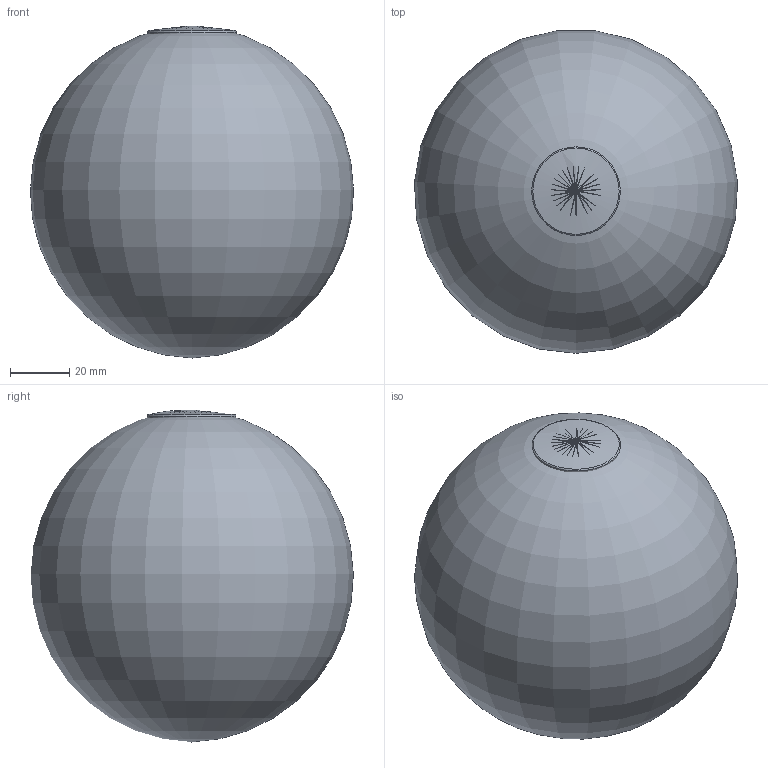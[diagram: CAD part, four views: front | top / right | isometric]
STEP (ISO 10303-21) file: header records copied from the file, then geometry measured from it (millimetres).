
FILE_DESCRIPTION (( 'STEP AP214' ), '1' );
FILE_NAME ('朊22-VM3.STEP', '2019-05-07T13:13:25', ( '' ), ( '' ), 'SwSTEP 2.0', 'SolidWorks 2015', '' );
FILE_SCHEMA (( 'AUTOMOTIVE_DESIGN' ));
Length unit declared in the file: millimetre
Products named in the file (4): 朊22-VM3_膰豵鵨; 朊22-VM3; 扻錪犩; êðûøêà_00
Assembly tree (3 placements, depth 2):
  朊22-VM3
    朊22-VM3_膰豵鵨
    êðûøêà_00
    扻錪犩
Bounding box: 109 x 108.82 x 111.98 mm (x, y, z)
Volume: 52569.1 mm3; surface area: 86521 mm2
Topology: 3 solids, 7 shells, 710 faces, 1923 edges, 1260 vertices
Faces by surface type: plane 484, bspline 132, cylinder 81, cone 10, torus 3
Full cylindrical faces by diameter (mm): 0.803 x1, 5.8 x2, 6 x2, 20 x2, 21 x1, 26 x1, 27.896 x1, 27.9 x1, 28.5 x1, 29.896 x1, 30 x1
Entity records: 39954 total; most frequent: CARTESIAN_POINT 21447, ORIENTED_EDGE 3792, DIRECTION 2440, EDGE_CURVE 1896, VERTEX_POINT 1250, LINE 952, VECTOR 952, EDGE_LOOP 766
